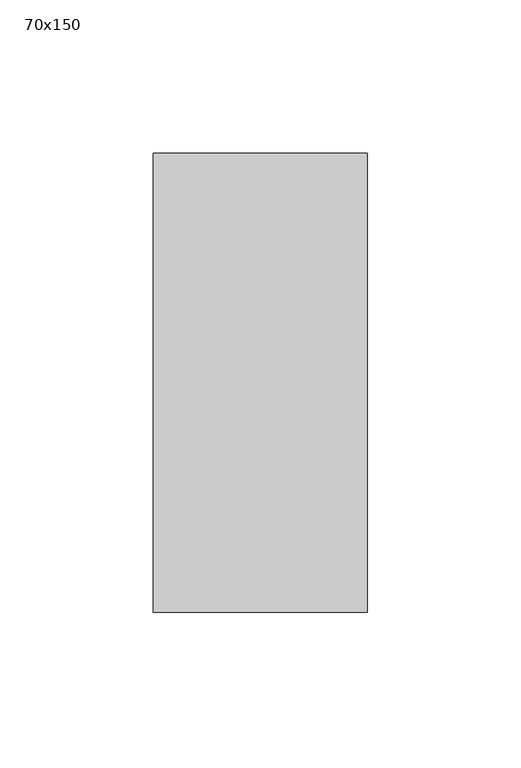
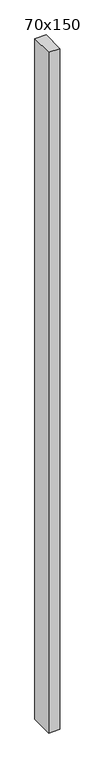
"""IFC4 building model written with IfcOpenShell, lengths in millimetres: member geometry, 長方形のマリオン : 70x150."""

from ifc_helpers import new_model, si_unit, frame, origin, place, context, project, spatial, polyline, outline, extrude, source, transform, mapped, element, save


def member_70x150_271f9d11(model_context):
    return source(origin(), model_context, "Body", "SweptSolid", [
        extrude(outline(polyline([(0.0, 75.0), (0.0, -75.0), (-70.0, -75.0), (-70.0, 75.0), (0.0, 75.0)])), frame((0.0, 0.0, -4500.0), z_axis=(0.0, 0.0, 1.0), x_axis=(1.0, 0.0, 0.0)), (0.0, 0.0, 1.0), 4500.0),
    ])


if __name__ == "__main__":
    model = new_model("IFC4")
    model_context = context("Model", 3, world=origin())
    ifc_project = project(units=[si_unit("LENGTHUNIT", "METRE", prefix="MILLI")], contexts=[model_context])
    site = spatial("IfcSite", under=ifc_project)
    building = spatial("IfcBuilding", under=site)
    placement = place(None, origin())
    member_70x150_shape = member_70x150_271f9d11(model_context)
    element("IfcMember", 1, ObjectType="長方形のマリオン : 70x150", at=placement, inside=building, context=model_context, shape_type="MappedRepresentation", body=[
        mapped(member_70x150_shape, transform((0.0, 0.0, 0.0), x_axis=(1.0, 0.0, 0.0), y_axis=(0.0, 1.0, 0.0), z_axis=(0.0, 0.0, 1.0))),
    ])
    save(model, "model.ifc")
